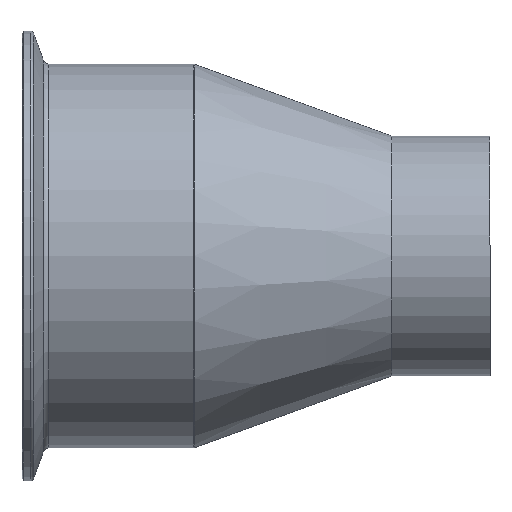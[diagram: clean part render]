
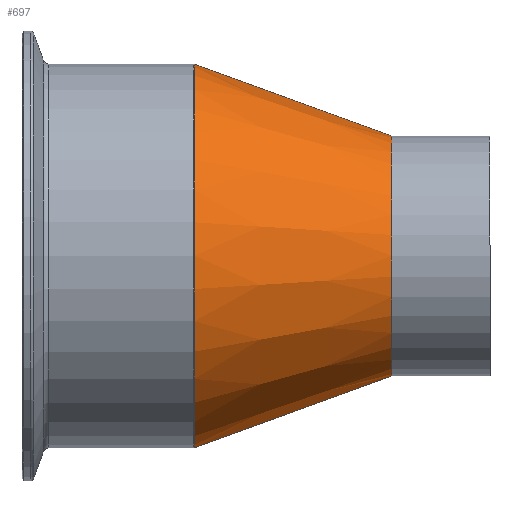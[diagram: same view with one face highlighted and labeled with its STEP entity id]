
A CAD part, top view. The second image highlights one B-rep face of the part: STEP entity #697.
In plain terms, the highlighted conical face has half-angle 20 degrees and reference radius 31.75 mm.
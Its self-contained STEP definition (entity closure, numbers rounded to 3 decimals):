
#15 = VERTEX_POINT ( 'NONE', #378 ) ;
#19 = DIRECTION ( 'NONE',  ( 1., 0., 0. ) ) ;
#36 = CARTESIAN_POINT ( 'NONE',  ( -26., 0., 0. ) ) ;
#60 = ORIENTED_EDGE ( 'NONE', *, *, #588, .T. ) ;
#61 = EDGE_CURVE ( 'NONE', #1045, #211, #134, .T. ) ;
#134 = LINE ( 'NONE', #540, #379 ) ;
#211 = VERTEX_POINT ( 'NONE', #632 ) ;
#269 = CARTESIAN_POINT ( 'NONE',  ( -78.207, 50.752, 0. ) ) ;
#314 = AXIS2_PLACEMENT_3D ( 'NONE', #385, #414, #498 ) ;
#348 = CIRCLE ( 'NONE', #520, 31.75 ) ;
#349 = DIRECTION ( 'NONE',  ( -0.94, -0.342, 0. ) ) ;
#375 = LINE ( 'NONE', #965, #1012 ) ;
#378 = CARTESIAN_POINT ( 'NONE',  ( -26., 31.75, 0. ) ) ;
#379 = VECTOR ( 'NONE', #349, 1000. ) ;
#385 = CARTESIAN_POINT ( 'NONE',  ( -26., 0., 0. ) ) ;
#414 = DIRECTION ( 'NONE',  ( -1., 0., 0. ) ) ;
#435 = CONICAL_SURFACE ( 'NONE', #314, 31.75, 0.349 ) ;
#469 = EDGE_CURVE ( 'NONE', #15, #1045, #348, .T. ) ;
#498 = DIRECTION ( 'NONE',  ( 0., -1., 0. ) ) ;
#504 = ORIENTED_EDGE ( 'NONE', *, *, #469, .F. ) ;
#520 = AXIS2_PLACEMENT_3D ( 'NONE', #36, #19, #1079 ) ;
#540 = CARTESIAN_POINT ( 'NONE',  ( -26., -31.75, 0. ) ) ;
#588 = EDGE_CURVE ( 'NONE', #984, #211, #612, .T. ) ;
#612 = CIRCLE ( 'NONE', #982, 50.752 ) ;
#614 = EDGE_LOOP ( 'NONE', ( #504, #731, #60, #820 ) ) ;
#632 = CARTESIAN_POINT ( 'NONE',  ( -78.207, -50.752, 0. ) ) ;
#697 = ADVANCED_FACE ( 'NONE', ( #806 ), #435, .T. ) ;
#731 = ORIENTED_EDGE ( 'NONE', *, *, #1010, .T. ) ;
#784 = CARTESIAN_POINT ( 'NONE',  ( -26., -31.75, 0. ) ) ;
#806 = FACE_OUTER_BOUND ( 'NONE', #614, .T. ) ;
#820 = ORIENTED_EDGE ( 'NONE', *, *, #61, .F. ) ;
#946 = DIRECTION ( 'NONE',  ( 0., 1., 0. ) ) ;
#965 = CARTESIAN_POINT ( 'NONE',  ( -26., 31.75, 0. ) ) ;
#974 = DIRECTION ( 'NONE',  ( -0.94, 0.342, 0. ) ) ;
#981 = DIRECTION ( 'NONE',  ( 1., 0., 0. ) ) ;
#982 = AXIS2_PLACEMENT_3D ( 'NONE', #990, #981, #946 ) ;
#984 = VERTEX_POINT ( 'NONE', #269 ) ;
#990 = CARTESIAN_POINT ( 'NONE',  ( -78.207, 0., 0. ) ) ;
#1010 = EDGE_CURVE ( 'NONE', #15, #984, #375, .T. ) ;
#1012 = VECTOR ( 'NONE', #974, 1000. ) ;
#1045 = VERTEX_POINT ( 'NONE', #784 ) ;
#1079 = DIRECTION ( 'NONE',  ( 0., 1., 0. ) ) ;
